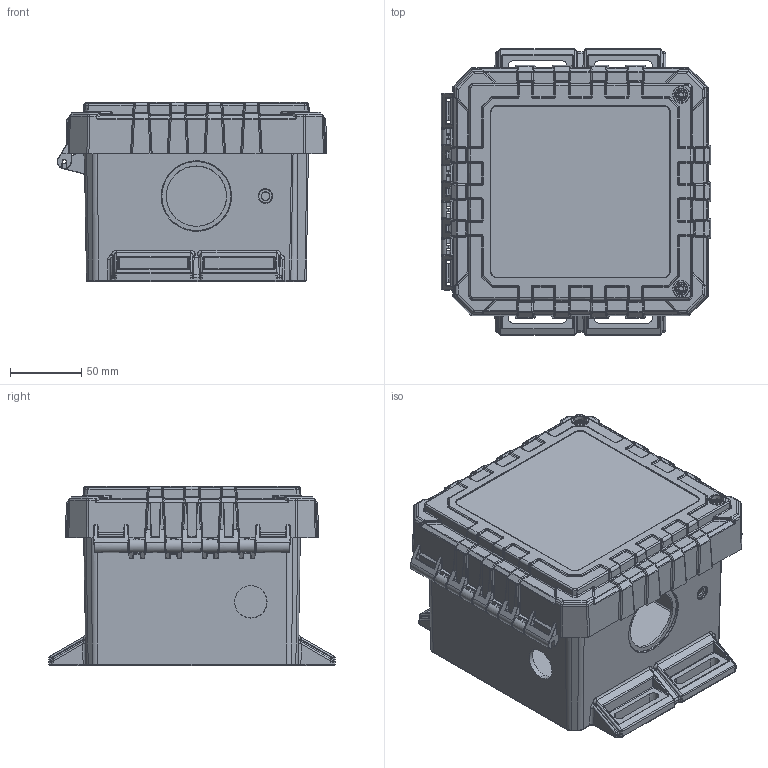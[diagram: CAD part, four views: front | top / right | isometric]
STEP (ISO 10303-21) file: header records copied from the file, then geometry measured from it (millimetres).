
FILE_DESCRIPTION (( 'STEP AP214' ), '1' );
FILE_NAME ('M1.STEP', '2026-06-01T19:03:19', ( '' ), ( '' ), 'SwSTEP 2.0', 'SolidWorks 2024', '' );
FILE_SCHEMA (( 'AUTOMOTIVE_DESIGN' ));
Length unit declared in the file: millimetre
Products named in the file (1): M1
Bounding box: 188.49 x 200.26 x 125.25 mm (x, y, z)
Volume: 566298.3 mm3; surface area: 332107 mm2
Topology: 2 solids, 2 shells, 5706 faces, 13809 edges, 7568 vertices
Faces by surface type: cylinder 2328, bspline 1553, plane 970, sphere 435, torus 287, cone 133
Entity records: 235067 total; most frequent: CARTESIAN_POINT 82753, ORIENTED_EDGE 26440, DIRECTION 22186, EDGE_CURVE 13220, AXIS2_PLACEMENT_3D 8625, VERTEX_POINT 7528, EDGE_LOOP 5778, FACE_OUTER_BOUND 5706
